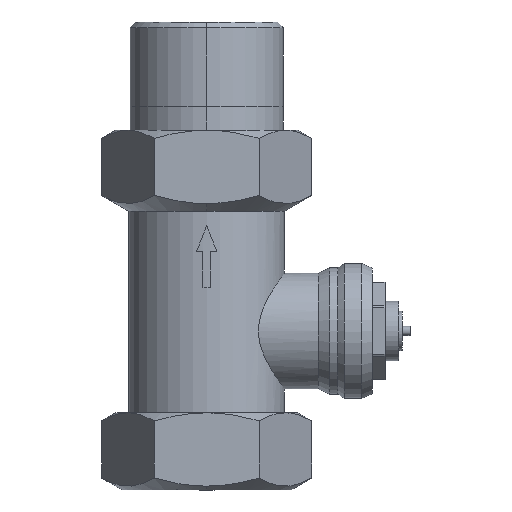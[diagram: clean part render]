
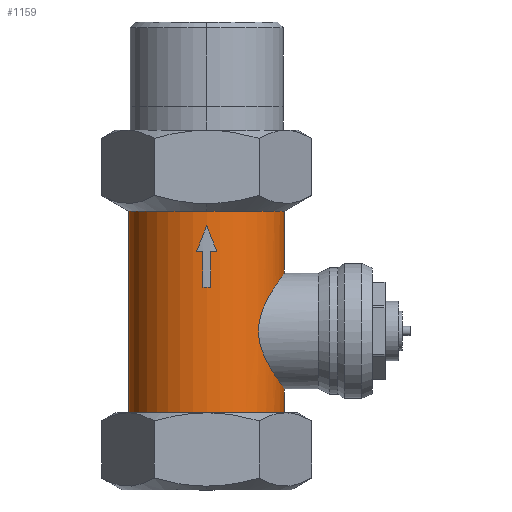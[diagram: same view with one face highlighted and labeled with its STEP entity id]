
A CAD part, left-side view. The second image highlights one B-rep face of the part: STEP entity #1159.
In plain terms, the highlighted cylindrical face has radius 17.103 mm (diameter 34.206 mm), a partial arc.
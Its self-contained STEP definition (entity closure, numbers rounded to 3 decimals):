
#397=CARTESIAN_POINT('',(-17.103,0.,49.36));
#398=VERTEX_POINT('',#397);
#407=CARTESIAN_POINT('',(0.,-17.103,49.36));
#408=VERTEX_POINT('',#407);
#409=CARTESIAN_POINT('',(0.,0.0,49.36));
#410=DIRECTION('',(0.0,0.0,-1.0));
#411=DIRECTION('',(0.0,-1.0,0.0));
#412=AXIS2_PLACEMENT_3D('',#409,#410,#411);
#413=CIRCLE('',#412,17.103);
#414=EDGE_CURVE('',#408,#398,#413,.T.);
#794=CARTESIAN_POINT('',(0.,-17.103,35.75));
#795=VERTEX_POINT('',#794);
#809=CARTESIAN_POINT('',(0.,-17.103,10.25));
#810=VERTEX_POINT('',#809);
#1043=CARTESIAN_POINT('',(0.,-17.103,4.992));
#1044=VERTEX_POINT('',#1043);
#1045=CARTESIAN_POINT('',(0.,-17.103,4.992));
#1046=DIRECTION('',(0.0,0.0,1.0));
#1047=VECTOR('',#1046,5.258);
#1048=LINE('',#1045,#1047);
#1049=EDGE_CURVE('',#1044,#810,#1048,.T.);
#1051=CARTESIAN_POINT('',(0.,17.103,4.992));
#1052=VERTEX_POINT('',#1051);
#1060=CARTESIAN_POINT('',(0.,17.103,49.36));
#1061=VERTEX_POINT('',#1060);
#1062=CARTESIAN_POINT('',(0.,17.103,49.36));
#1063=DIRECTION('',(0.0,0.0,-1.0));
#1064=VECTOR('',#1063,44.367);
#1065=LINE('',#1062,#1064);
#1066=EDGE_CURVE('',#1061,#1052,#1065,.T.);
#1076=CARTESIAN_POINT('',(0.,-17.103,35.75));
#1077=DIRECTION('',(0.0,0.0,1.0));
#1078=VECTOR('',#1077,13.61);
#1079=LINE('',#1076,#1078);
#1080=EDGE_CURVE('',#795,#408,#1079,.T.);
#1086=CARTESIAN_POINT('',(0.,0.0,-0.242));
#1087=DIRECTION('',(0.,0.,1.0));
#1088=DIRECTION('',(0.0,-1.0,0.0));
#1089=AXIS2_PLACEMENT_3D('',#1086,#1087,#1088);
#1090=CYLINDRICAL_SURFACE('',#1089,17.103);
#1091=ORIENTED_EDGE('',*,*,#1049,.T.);
#1092=CARTESIAN_POINT('',(-12.75,-11.399,23.0));
#1093=VERTEX_POINT('',#1092);
#1094=CARTESIAN_POINT('',(-12.75,-11.399,23.0));
#1095=CARTESIAN_POINT('',(-12.75,-11.399,22.573));
#1096=CARTESIAN_POINT('',(-12.728,-11.424,22.144));
#1097=CARTESIAN_POINT('',(-12.642,-11.519,21.292));
#1098=CARTESIAN_POINT('',(-12.578,-11.59,20.868));
#1099=CARTESIAN_POINT('',(-12.321,-11.864,19.613));
#1100=CARTESIAN_POINT('',(-12.067,-12.129,18.798));
#1101=CARTESIAN_POINT('',(-11.411,-12.748,17.25));
#1102=CARTESIAN_POINT('',(-11.009,-13.102,16.517));
#1103=CARTESIAN_POINT('',(-10.088,-13.823,15.161));
#1104=CARTESIAN_POINT('',(-9.569,-14.19,14.538));
#1105=CARTESIAN_POINT('',(-8.473,-14.87,13.442));
#1106=CARTESIAN_POINT('',(-7.857,-15.21,12.925));
#1107=CARTESIAN_POINT('',(-6.501,-15.837,12.001));
#1108=CARTESIAN_POINT('',(-5.761,-16.124,11.594));
#1109=CARTESIAN_POINT('',(-4.198,-16.6,10.931));
#1110=CARTESIAN_POINT('',(-3.373,-16.788,10.674));
#1111=CARTESIAN_POINT('',(-1.693,-17.04,10.334));
#1112=CARTESIAN_POINT('',(-0.838,-17.103,10.25));
#1113=CARTESIAN_POINT('',(0.,-17.103,10.25));
#1114=B_SPLINE_CURVE_WITH_KNOTS('',3,(#1094,#1095,#1096,#1097,#1098,#1099,#1100,#1101,#1102,#1103,#1104,#1105,#1106,#1107,#1108,#1109,#1110,#1111,#1112,#1113),.UNSPECIFIED.,.F.,.U.,(4,2,2,2,2,2,2,2,2,4),(0.0,1.282,2.565,5.13,7.695,10.26,12.772,15.285,17.798,20.311),.UNSPECIFIED.);
#1115=EDGE_CURVE('',#1093,#810,#1114,.T.);
#1116=ORIENTED_EDGE('',*,*,#1115,.F.);
#1117=CARTESIAN_POINT('',(0.,-17.103,35.75));
#1118=CARTESIAN_POINT('',(-0.838,-17.103,35.75));
#1119=CARTESIAN_POINT('',(-1.693,-17.04,35.666));
#1120=CARTESIAN_POINT('',(-3.373,-16.788,35.326));
#1121=CARTESIAN_POINT('',(-4.198,-16.6,35.069));
#1122=CARTESIAN_POINT('',(-5.761,-16.124,34.406));
#1123=CARTESIAN_POINT('',(-6.501,-15.837,33.999));
#1124=CARTESIAN_POINT('',(-7.857,-15.21,33.075));
#1125=CARTESIAN_POINT('',(-8.473,-14.87,32.558));
#1126=CARTESIAN_POINT('',(-9.569,-14.19,31.462));
#1127=CARTESIAN_POINT('',(-10.088,-13.823,30.839));
#1128=CARTESIAN_POINT('',(-11.009,-13.102,29.483));
#1129=CARTESIAN_POINT('',(-11.411,-12.748,28.75));
#1130=CARTESIAN_POINT('',(-12.067,-12.129,27.202));
#1131=CARTESIAN_POINT('',(-12.321,-11.864,26.387));
#1132=CARTESIAN_POINT('',(-12.578,-11.59,25.132));
#1133=CARTESIAN_POINT('',(-12.642,-11.519,24.708));
#1134=CARTESIAN_POINT('',(-12.728,-11.424,23.856));
#1135=CARTESIAN_POINT('',(-12.75,-11.399,23.427));
#1136=CARTESIAN_POINT('',(-12.75,-11.399,23.0));
#1137=B_SPLINE_CURVE_WITH_KNOTS('',3,(#1117,#1118,#1119,#1120,#1121,#1122,#1123,#1124,#1125,#1126,#1127,#1128,#1129,#1130,#1131,#1132,#1133,#1134,#1135,#1136),.UNSPECIFIED.,.F.,.U.,(4,2,2,2,2,2,2,2,2,4),(60.933,63.446,65.958,68.471,70.984,73.549,76.114,78.679,79.961,81.244),.UNSPECIFIED.);
#1138=EDGE_CURVE('',#795,#1093,#1137,.T.);
#1139=ORIENTED_EDGE('',*,*,#1138,.F.);
#1140=ORIENTED_EDGE('',*,*,#1080,.T.);
#1141=ORIENTED_EDGE('',*,*,#414,.T.);
#1142=CARTESIAN_POINT('',(0.,0.0,49.36));
#1143=DIRECTION('',(0.0,0.0,-1.0));
#1144=DIRECTION('',(0.0,-1.0,0.0));
#1145=AXIS2_PLACEMENT_3D('',#1142,#1143,#1144);
#1146=CIRCLE('',#1145,17.103);
#1147=EDGE_CURVE('',#398,#1061,#1146,.T.);
#1148=ORIENTED_EDGE('',*,*,#1147,.T.);
#1149=ORIENTED_EDGE('',*,*,#1066,.T.);
#1150=CARTESIAN_POINT('',(0.,0.0,4.992));
#1151=DIRECTION('',(0.0,0.0,1.0));
#1152=DIRECTION('',(0.0,-1.0,0.0));
#1153=AXIS2_PLACEMENT_3D('',#1150,#1151,#1152);
#1154=CIRCLE('',#1153,17.103);
#1155=EDGE_CURVE('',#1052,#1044,#1154,.T.);
#1156=ORIENTED_EDGE('',*,*,#1155,.T.);
#1157=EDGE_LOOP('',(#1091,#1116,#1139,#1140,#1141,#1148,#1149,#1156));
#1158=FACE_OUTER_BOUND('',#1157,.T.);
#1159=ADVANCED_FACE('',(#1158),#1090,.T.);
